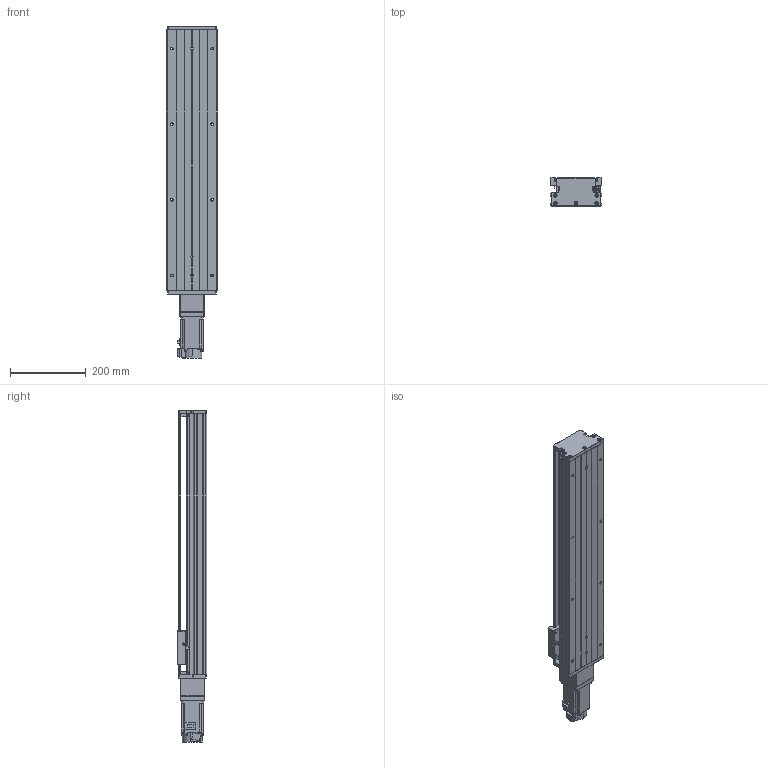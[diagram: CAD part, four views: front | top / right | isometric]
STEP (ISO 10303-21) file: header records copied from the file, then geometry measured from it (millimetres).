
FILE_DESCRIPTION (( 'STEP AP203' ), '1' );
FILE_NAME ('KTH130-550-BC-M40-C4.step', '2023-06-30T03:54:43', ( '微软用户' ), ( '微软中国' ), 'SwSTEP 2.0', 'SolidWorks 2020', '' );
FILE_SCHEMA (( 'CONFIG_CONTROL_DESIGN' ));
Length unit declared in the file: millimetre
Products named in the file (19): KTH130-004; CTHA86-006-1_M40; KTH130-005; CTHA86-013; GB1155-6X6; CTHA60-016; CTHA86-027-1; GBT70.1 M5℅16; GBT 70.1-M3℅5; HG-KN43J-S100; GBT 70.2-M3¡Á5_M3¡Á6; GBT77-2000 M3×3; KTH130-550-BC-M40-C4; GTH14-001_550; CTHA60-017; す晦芛蹟隊 M3℅5; KTH130-002_KTH130-002; EE_SX911P_R; GBT 70.3-M3℅8
Assembly tree (52 placements, depth 2):
  KTH130-550-BC-M40-C4
    GTH14-001_550
    KTH130-002_KTH130-002
    KTH130-004
    KTH130-005
    GB1155-6X6  x2
    GBT70.1 M5℅16  x10
    GBT 70.2-M3¡Á5_M3¡Á6  x4
    CTHA60-017  x3
    EE_SX911P_R  x3
    CTHA60-016  x2
    GBT 70.1-M3℅5  x6
    GBT77-2000 M3×3  x6
    す晦芛蹟隊 M3℅5  x2
    GBT 70.3-M3℅8  x6
    CTHA86-006-1_M40
    CTHA86-013
    CTHA86-027-1
    HG-KN43J-S100
Bounding box: 135 x 78 x 878.7 mm (x, y, z)
Volume: 4468311.1 mm3; surface area: 692199.5 mm2
Topology: 55 solids, 55 shells, 2172 faces, 5254 edges, 3278 vertices
Faces by surface type: plane 1192, cylinder 592, cone 280, torus 96, sphere 12
Entity records: 39574 total; most frequent: CARTESIAN_POINT 8426, DIRECTION 5865, ORIENTED_EDGE 5792, EDGE_CURVE 2896, AXIS2_PLACEMENT_3D 1991, VECTOR 1883, LINE 1883, VERTEX_POINT 1850
